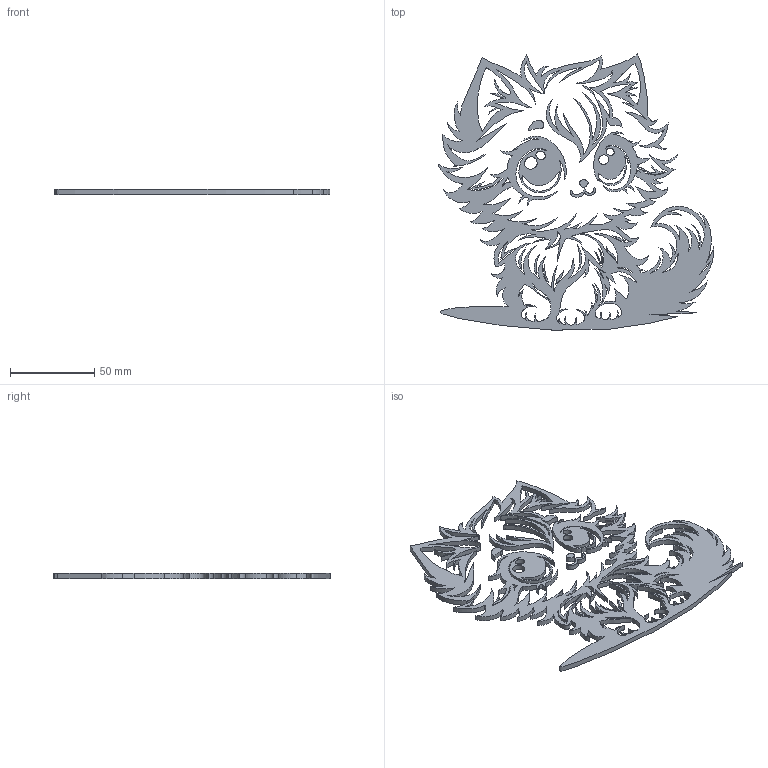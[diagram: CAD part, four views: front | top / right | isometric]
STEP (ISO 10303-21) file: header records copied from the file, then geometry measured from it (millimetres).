
FILE_DESCRIPTION(('STEP AP214'),'1');
FILE_NAME('1.stp','2026-07-04T12:16:22',(' '),(' '),'Spatial InterOp 3D',' ',' ');
FILE_SCHEMA(('AUTOMOTIVE_DESIGN { 1 0 10303 214 1 1 1 1 }'));
Length unit declared in the file: metre
Products named in the file (16): 1783172622; 1783172623; 1783172626; 1783172627; 1783172635; 1783172641; 1783172642; 1783172643; 1783172644; 1783172645; 1783172646; 1783172647; 1783172649; 1783172650; 1783172774; 1
Bounding box: 163.28 x 163.6 x 3 mm (x, y, z)
Volume: 28946.4 mm3; surface area: 36219.8 mm2
Topology: 15 solids, 15 shells, 412 faces, 1528 edges, 1146 vertices
Faces by surface type: extrusion 379, plane 33
Entity records: 27235 total; most frequent: CARTESIAN_POINT 12935, ORIENTED_EDGE 2284, B_SPLINE_CURVE_WITH_KNOTS 1497, EDGE_CURVE 1142, DIRECTION 859, VERTEX_POINT 764, VECTOR 761, STYLED_ITEM 499
